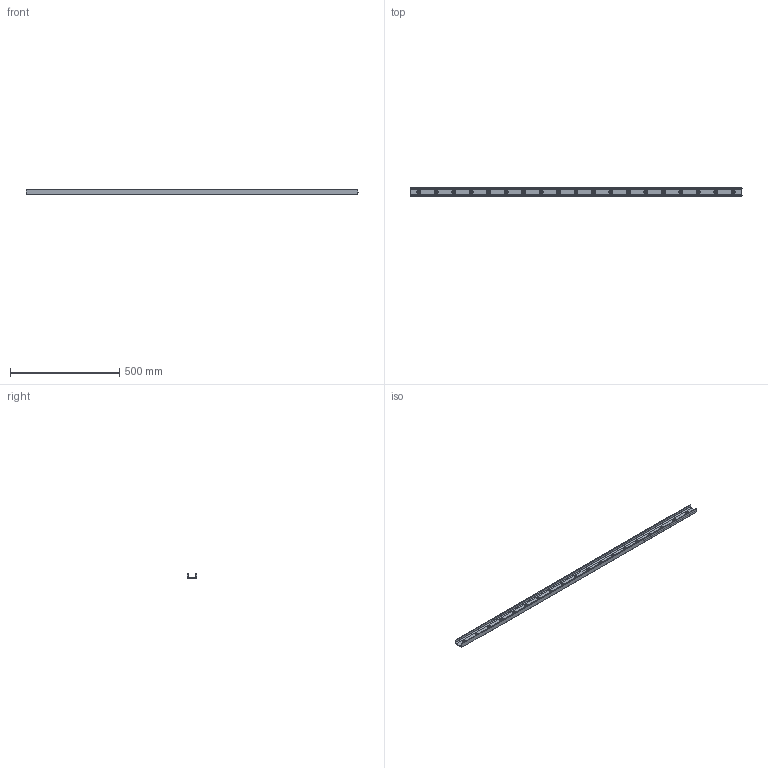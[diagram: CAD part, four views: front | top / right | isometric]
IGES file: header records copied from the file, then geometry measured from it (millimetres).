
Start section: SolidWorks IGES file using analytic representation for surfaces
Global section: file name: C:\Users\IanO\Desktop\43\L1943.ULC43_v2_20180121_IGES\L1943.ULC43-1520.igs; native system: SolidWorks 2017; preprocessor: SolidWorks 2017; author: IanO; date: 190121.084746; units: millimetre
Bounding box: 1520 x 43 x 21 mm (x, y, z)
Surface area: 238684.6 mm2 (no closed solid volume)
Topology: 0 solids, 0 shells, 121 faces, 3030 edges, 3030 vertices
Faces by surface type: revolution 89, bspline 32
